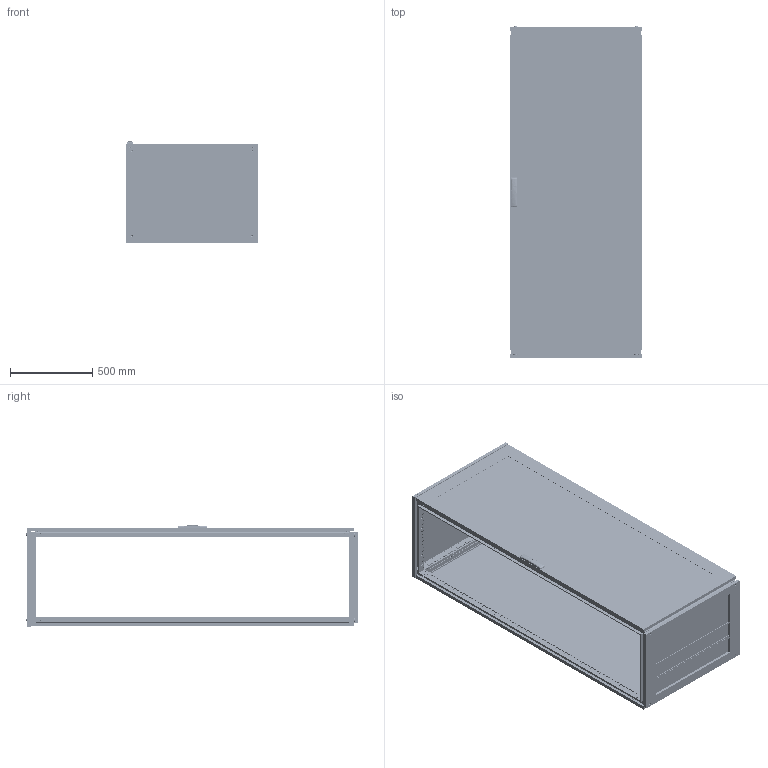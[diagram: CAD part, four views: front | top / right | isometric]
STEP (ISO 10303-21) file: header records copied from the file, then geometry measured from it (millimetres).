
FILE_DESCRIPTION (( 'STEP AP203' ), '1' );
FILE_NAME ('R5CQEN2086AX.STEP', '2025-05-07T12:09:54', ( '' ), ( '' ), 'SwSTEP 2.0', 'SolidWorks 2022', '' );
FILE_SCHEMA (( 'CONFIG_CONTROL_DESIGN' ));
Length unit declared in the file: millimetre
Products named in the file (66): RB.2680.00.01.0 simple; M6x10 DIN 7500 M Torx cl.5.8 Zinc_straight; TPA.08.0084.00.00.0 simple; RB.2686.00.00.0 simple; RB.2172.00.00.1 simple; M12x16 ISO 7380-1 HX cl.4,8 Zinc_straight; RB.2499.01.00.0 СБ simple_-19; RB.2680.00.02.0 simple; TPA.08.0139.00.03.0; 7 DIN 6799 Zinc simple; R5NCPTE - Assem simple_R5NCPTE2080; RB.0562.01.01.0 simple_-16; M6x15 Erickson cl.4,8 Zinc; RB.0562.00.00.0 СБ simple_-16; Glue CPTE simple_2000x0800; RB.2528.00.00.0 simple_-05; М6х12 A5100231_straight; RB.2685.00.00.0 simple_-02; Pin 4x16 DIN 7 AISI 303 (A1) simple; M6x10 DIN 7500 E HX cl.5.8 Zinc_straight; RB.1867.01.01.0 simple_-13; R5NKTB - Assem simple_H=2000 R5NKTB86; R5NKMN - Assem simple_R5NKMN20 (800х600); PF 7x14 CRE simple_2000x0800; RB.2052.00.00.0 СБ simple_-24; RB.2696.00.00.0 simple; 4,0x16 F Torx Zinc (ART 88200)_thread; RB.2456.00.00.0 simple_-02; RB.2968.00.00.0 simple; R5NCRE-Assem simple_R5NCRE2080; RB.0054.01.01.0 simple_-24; RB.0528.04.01.0 simple; 7 DIN 6799 Zinc; RB.1633.00.01.0 simple_-03; TPA.08.0083.00.00.0 simple; RB.1867.01.00.0 СБ simple_-28 ; RB.2969.00.01.0 simple; RB.2755.00.00.0 СБ simple_-20; 4.8x13 DIN 7981 PH Zinc_straight; RB.0528.00.01.0 simple_-05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
Assembly tree (173 placements, depth 5):
  R5CQEN2086AX
    R5NCPTE - Assem simple_R5NCPTE2080
      RB.0562.00.00.0 СБ simple_-16
        RB.0562.01.00.0 СБ simple_-16
          RB.0562.01.01.0 simple_-16
          М6х12 A5100231_straight  x7
          RB.2702.00.00.0 simple  x4
          PF 7,5x15 CPE simple_2000x0800
          Glass CPTE_2000x0800
          Glue CPTE simple_2000x0800
        Square cap 20x20 simple  x2
        M6x15 Erickson cl.4,8 Zinc  x2
        RB.0528.00.01.0 simple_-05  x2
        ATOS Traction guide ILY03.35  x4
        RB.2357.00.00.0 simple_-05
        RB.2680.00.00.0 СБ simple
          TPA.08.0139.00.01.0 simple
          RB.2680.00.01.0 simple
          RB.2680.00.02.0 simple  x2
        TPA.08.0139.00.03.0  x2
        M6 DIN 985 cl.6,0 Zinc_straight  x4
        4,0x16 F Torx Zinc (ART 88200)_thread  x2
        RB.0528.04.00.0 СБ simple  x2
          RB.0528.04.01.0 simple
          Pressing stud FH-M6-12_M6x12mm
      M6x10 DIN 912 HX cl.8,8 Zinc_straight  x8
      4.8x13 DIN 7981 PH Zinc_straight
      7 DIN 6799 Zinc simple  x4
      RB.2968.00.00.0 simple  x4
      RB.2969.00.00.0 СБ simple  x4
        RB.2969.00.01.0 simple
        Pin 4x16 DIN 7 AISI 303 (A1) simple
        M6 MGR-MKO-0625 simple_Thread
      AC00C446-R
      RB.2696.00.00.0 simple  x4
      7 DIN 6799 Zinc  x4
    R5NCRE-Assem simple_R5NCRE2080
      RB.2052.00.00.0 СБ simple_-24
        RB.2052.01.00.0 СБ simple_-24
          RB.0054.01.01.0 simple_-24
          М6х12 A5100231_straight  x4
        PF 7x14 CRE simple_2000x0800
      RB.2172.00.00.1 simple  x8
      M6x10 DIN 7500 E HX cl.5.8 Zinc_straight  x8
      M6x10 DIN 7500 M Torx cl.5.8 Zinc_straight  x8
    R5NKMN - Assem simple_R5NKMN20 (800х600)
      RB.2528.00.00.0 simple_-05  x4
    R5NKTB - Assem simple_H=2000 R5NKTB86
      RB.2499.00.00.0 СБ simple_-20
        RB.2499.01.00.0 СБ simple_-19
          RB.1633.00.01.0 simple_-03  x2
          RB.1633.00.02.0 simple_-02  x2
          PF 5x10 KTB simple_800x600
        RB.2457.00.00.0 СБ simple_-20
          RB.2455.00.00.0 simple_-03  x2
          RB.2456.00.00.0 simple_-02  x2
          TPA.08.0084.00.00.0 simple  x2
          TPA.08.0083.00.00.0 simple  x2
          M8x12 AC00C476 cl.8,8 Zinc_stright  x4
        RB.1957.00.00.0 simple_-10  x2
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Bounding box: 800 x 2013.3 x 614.79 mm (x, y, z)
Volume: 18145145.8 mm3; surface area: 15649805.5 mm2
Topology: 176 solids, 192 shells, 23073 faces, 65515 edges, 43179 vertices
Faces by surface type: plane 12835, cylinder 8697, cone 704, bspline 435, torus 368, sphere 34
Entity records: 231320 total; most frequent: CARTESIAN_POINT 56593, ORIENTED_EDGE 34678, DIRECTION 33149, EDGE_CURVE 17365, VERTEX_POINT 11502, AXIS2_PLACEMENT_3D 11129, VECTOR 10891, LINE 10891
